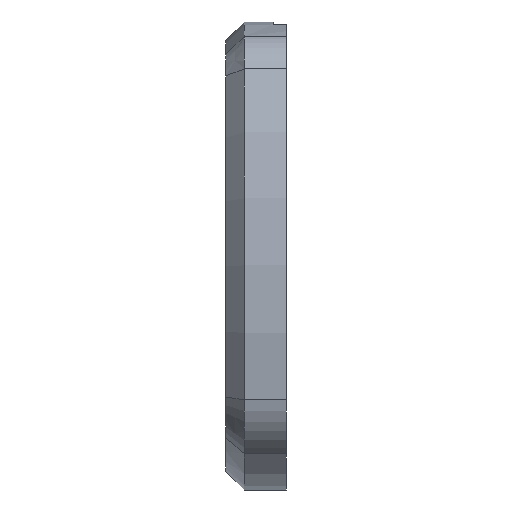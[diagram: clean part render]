
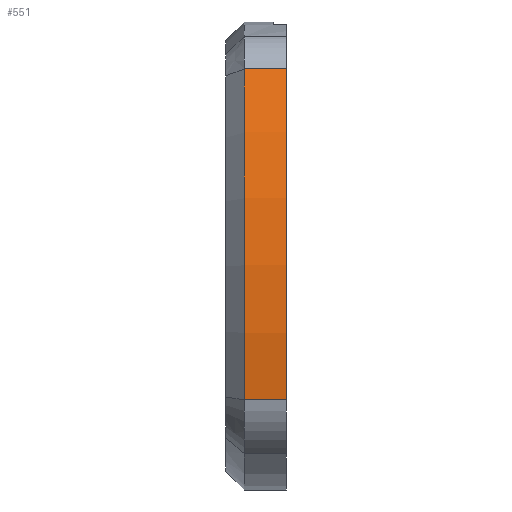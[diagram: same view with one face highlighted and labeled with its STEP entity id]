
A CAD part, left-side view. The second image highlights one B-rep face of the part: STEP entity #551.
In plain terms, the highlighted cylindrical face has radius 65.379 mm (diameter 130.758 mm), a partial arc.
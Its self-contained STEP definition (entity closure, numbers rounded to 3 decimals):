
#3 = CARTESIAN_POINT ( 'NONE',  ( -19.183, 4.5, -38.378 ) ) ;
#79 = CIRCLE ( 'NONE', #3195, 65.379 ) ;
#140 = ORIENTED_EDGE ( 'NONE', *, *, #1921, .F. ) ;
#219 = VERTEX_POINT ( 'NONE', #3021 ) ;
#234 = DIRECTION ( 'NONE',  ( 0., 0., -1. ) ) ;
#429 = EDGE_CURVE ( 'NONE', #219, #3086, #932, .T. ) ;
#551 = ADVANCED_FACE ( 'NONE', ( #2176 ), #890, .T. ) ;
#571 = CARTESIAN_POINT ( 'NONE',  ( -19.183, 0., -38.378 ) ) ;
#627 = ORIENTED_EDGE ( 'NONE', *, *, #2305, .T. ) ;
#632 = CARTESIAN_POINT ( 'NONE',  ( -19.183, 6.5, -38.378 ) ) ;
#681 = VERTEX_POINT ( 'NONE', #3 ) ;
#817 = EDGE_CURVE ( 'NONE', #3086, #2730, #79, .T. ) ;
#890 = CYLINDRICAL_SURFACE ( 'NONE', #2704, 65.379 ) ;
#932 = LINE ( 'NONE', #3172, #1359 ) ;
#1295 = DIRECTION ( 'NONE',  ( 0., -1., 0. ) ) ;
#1359 = VECTOR ( 'NONE', #2883, 1000. ) ;
#1417 = DIRECTION ( 'NONE',  ( 0., 0., 1. ) ) ;
#1426 = CARTESIAN_POINT ( 'NONE',  ( 45.379, 0., -28.076 ) ) ;
#1588 = CARTESIAN_POINT ( 'NONE',  ( 45.379, 6.5, -28.076 ) ) ;
#1718 = DIRECTION ( 'NONE',  ( 0., -1., 0. ) ) ;
#1814 = ORIENTED_EDGE ( 'NONE', *, *, #817, .F. ) ;
#1921 = EDGE_CURVE ( 'NONE', #681, #219, #3060, .T. ) ;
#1979 = DIRECTION ( 'NONE',  ( 0., -1., 0. ) ) ;
#2073 = LINE ( 'NONE', #632, #3099 ) ;
#2084 = EDGE_LOOP ( 'NONE', ( #627, #1814, #2649, #140 ) ) ;
#2176 = FACE_OUTER_BOUND ( 'NONE', #2084, .T. ) ;
#2305 = EDGE_CURVE ( 'NONE', #681, #2730, #2073, .T. ) ;
#2649 = ORIENTED_EDGE ( 'NONE', *, *, #429, .F. ) ;
#2704 = AXIS2_PLACEMENT_3D ( 'NONE', #1588, #1295, #234 ) ;
#2730 = VERTEX_POINT ( 'NONE', #571 ) ;
#2883 = DIRECTION ( 'NONE',  ( 0., -1., 0. ) ) ;
#3021 = CARTESIAN_POINT ( 'NONE',  ( -15.001, 4.5, -3.001 ) ) ;
#3060 = CIRCLE ( 'NONE', #3196, 65.379 ) ;
#3066 = DIRECTION ( 'NONE',  ( 0., 1., 0. ) ) ;
#3086 = VERTEX_POINT ( 'NONE', #3365 ) ;
#3099 = VECTOR ( 'NONE', #1718, 1000. ) ;
#3172 = CARTESIAN_POINT ( 'NONE',  ( -15.001, 6.5, -3.001 ) ) ;
#3195 = AXIS2_PLACEMENT_3D ( 'NONE', #1426, #1979, #3351 ) ;
#3196 = AXIS2_PLACEMENT_3D ( 'NONE', #3343, #3066, #1417 ) ;
#3343 = CARTESIAN_POINT ( 'NONE',  ( 45.379, 4.5, -28.076 ) ) ;
#3351 = DIRECTION ( 'NONE',  ( 0., 0., 1. ) ) ;
#3365 = CARTESIAN_POINT ( 'NONE',  ( -15.001, 0., -3.001 ) ) ;
